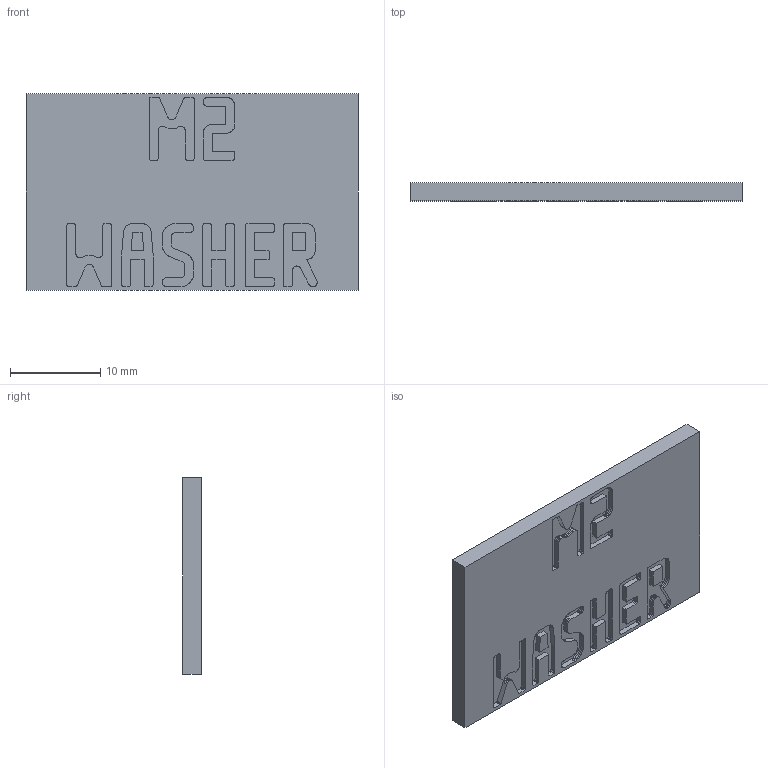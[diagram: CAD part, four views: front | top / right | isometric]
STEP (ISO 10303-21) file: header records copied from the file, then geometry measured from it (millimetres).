
FILE_DESCRIPTION(('Open CASCADE Model'),'2;1');
FILE_NAME('Open CASCADE Shape Model','2026-11-03T17:10:28',('Author'),( 'Open CASCADE'),'Open CASCADE STEP processor 8.0','build123d', 'Unknown');
FILE_SCHEMA(('AUTOMOTIVE_DESIGN { 1 0 10303 214 1 1 1 1 }'));
Length unit declared in the file: millimetre
Products named in the file (2): =>[0:1:1:2]; COMPOUND
Assembly tree (1 placements, depth 2):
  =>[0:1:1:2]
    COMPOUND
Bounding box: 36.8 x 2 x 21.8 mm (x, y, z)
Volume: 1528.1 mm3; surface area: 1986.2 mm2
Topology: 1 solids, 1 shells, 865 faces, 2559 edges, 1706 vertices
Faces by surface type: plane 865
Entity records: 61568 total; most frequent: CARTESIAN_POINT 10250, DIRECTION 9411, LINE 7677, VECTOR 7677, ORIENTED_EDGE 5118, PCURVE 5118, DEFINITIONAL_REPRESENTATION 5118, EDGE_CURVE 2559
